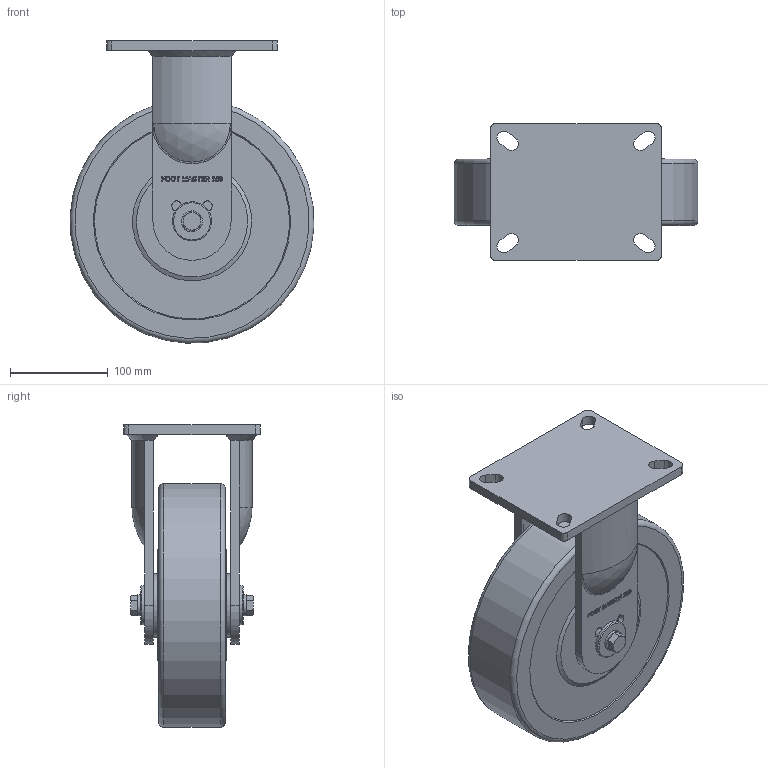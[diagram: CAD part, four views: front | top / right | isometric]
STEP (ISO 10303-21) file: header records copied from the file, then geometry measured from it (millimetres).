
FILE_DESCRIPTION(/* description */ (''),/* implementation_level */ '2;1');
FILE_NAME(/* name */ 'Y:\1.기술연구소\2.연구개발 진행중\133.고하중캐스터 브레이크 타입 변경건_2025.11.03\1.도면\4.홈페이지용 도면\01. 3D\GXT-250 SERIES\GXT-200-STEP\GXT-250-ARF-MCD.stp',/* time_stamp */ '2026-07-21T20:00:00+09:00',/* author */ ('장용하'),/* organization */ (''),/* preprocessor_version */ 'ST-DEVELOPER v18.1',/* originating_system */ 'Autodesk Inventor 2021',/* authorisation */ '');
FILE_SCHEMA (('CONFIG_CONTROL_DESIGN'));
Length unit declared in the file: millimetre
Products named in the file (1): GXT-250-ARF-MCD
Bounding box: 249.72 x 140 x 309.86 mm (x, y, z)
Volume: 3903818.6 mm3; surface area: 271342.5 mm2
Topology: 1 solids, 1 shells, 613 faces, 1671 edges, 1106 vertices
Faces by surface type: plane 288, bspline 236, cylinder 57, cone 18, torus 10, sphere 4
Full cylindrical faces by diameter (mm): 12 x2, 21.5 x2, 40 x2, 65 x2, 250 x1
Entity records: 20048 total; most frequent: CARTESIAN_POINT 5967, ORIENTED_EDGE 3342, DIRECTION 2147, EDGE_CURVE 1671, VERTEX_POINT 1106, LINE 955, VECTOR 955, EDGE_LOOP 673
